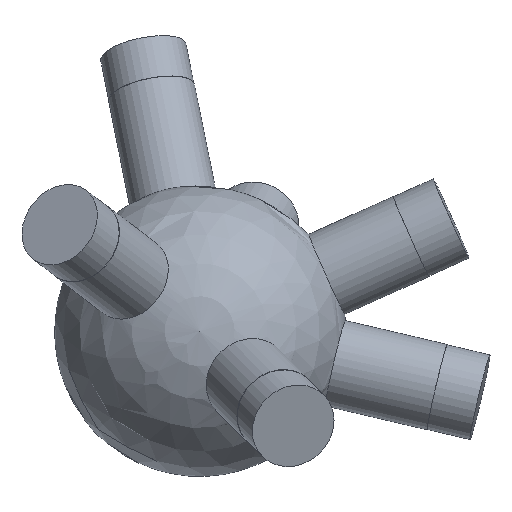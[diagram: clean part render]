
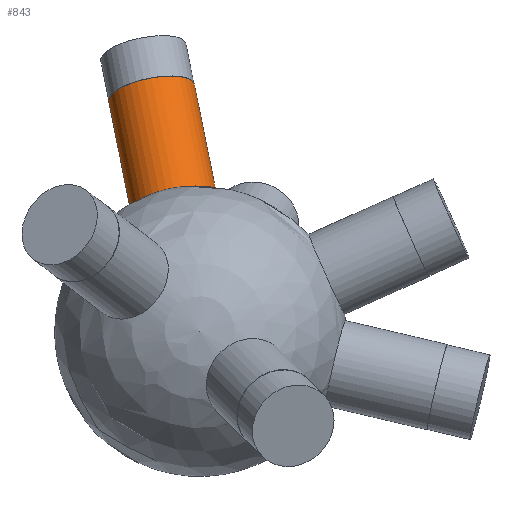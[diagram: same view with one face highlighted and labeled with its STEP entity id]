
A CAD part, top view. The second image highlights one B-rep face of the part: STEP entity #843.
In plain terms, the highlighted cylindrical face has radius 6 mm (diameter 12 mm), a full revolution.
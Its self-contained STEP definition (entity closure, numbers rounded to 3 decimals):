
#33 = SPHERICAL_SURFACE('',#34,20.);
#34 = AXIS2_PLACEMENT_3D('',#35,#36,#37);
#35 = CARTESIAN_POINT('',(0.,0.,0.));
#36 = DIRECTION('',(0.,0.,1.));
#37 = DIRECTION('',(1.,0.,-0.));
#341 = EDGE_CURVE('',#342,#342,#344,.T.);
#342 = VERTEX_POINT('',#343);
#343 = CARTESIAN_POINT('',(-3.56,19.667,
    -0.726));
#344 = SURFACE_CURVE('',#345,(#350,#419),.PCURVE_S1.);
#345 = CIRCLE('',#346,6.);
#346 = AXIS2_PLACEMENT_3D('',#347,#348,#349);
#347 = CARTESIAN_POINT('',(-3.56,17.628,
    -6.369));
#348 = DIRECTION('',(-0.187,0.924,-0.334));
#349 = DIRECTION('',(0.,0.34,0.94)
  );
#350 = PCURVE('',#33,#351);
#351 = DEFINITIONAL_REPRESENTATION('',(#352),#418);
#352 = B_SPLINE_CURVE_WITH_KNOTS('',8,(#353,#354,#355,#356,#357,#358,
    #359,#360,#361,#362,#363,#364,#365,#366,#367,#368,#369,#370,#371,
    #372,#373,#374,#375,#376,#377,#378,#379,#380,#381,#382,#383,#384,
    #385,#386,#387,#388,#389,#390,#391,#392,#393,#394,#395,#396,#397,
    #398,#399,#400,#401,#402,#403,#404,#405,#406,#407,#408,#409,#410,
    #411,#412,#413,#414,#415,#416,#417),.UNSPECIFIED.,.F.,.F.,(9,7,7,7,7
    ,7,7,7,7,9),(0.,0.785,1.473,2.074,
    2.6,3.06,3.866,4.47,
    5.377,6.283),.UNSPECIFIED.);
#353 = CARTESIAN_POINT('',(1.75,-0.036));
#354 = CARTESIAN_POINT('',(1.72,-0.038));
#355 = CARTESIAN_POINT('',(1.691,-0.043));
#356 = CARTESIAN_POINT('',(1.663,-0.051));
#357 = CARTESIAN_POINT('',(1.635,-0.062));
#358 = CARTESIAN_POINT('',(1.608,-0.076));
#359 = CARTESIAN_POINT('',(1.584,-0.093));
#360 = CARTESIAN_POINT('',(1.561,-0.112));
#361 = CARTESIAN_POINT('',(1.522,-0.151));
#362 = CARTESIAN_POINT('',(1.505,-0.171));
#363 = CARTESIAN_POINT('',(1.491,-0.193));
#364 = CARTESIAN_POINT('',(1.478,-0.216));
#365 = CARTESIAN_POINT('',(1.467,-0.24));
#366 = CARTESIAN_POINT('',(1.459,-0.264));
#367 = CARTESIAN_POINT('',(1.453,-0.289));
#368 = CARTESIAN_POINT('',(1.446,-0.337));
#369 = CARTESIAN_POINT('',(1.445,-0.36));
#370 = CARTESIAN_POINT('',(1.445,-0.383));
#371 = CARTESIAN_POINT('',(1.448,-0.405));
#372 = CARTESIAN_POINT('',(1.453,-0.427));
#373 = CARTESIAN_POINT('',(1.46,-0.449));
#374 = CARTESIAN_POINT('',(1.469,-0.47));
#375 = CARTESIAN_POINT('',(1.489,-0.508));
#376 = CARTESIAN_POINT('',(1.501,-0.525));
#377 = CARTESIAN_POINT('',(1.514,-0.542));
#378 = CARTESIAN_POINT('',(1.529,-0.557));
#379 = CARTESIAN_POINT('',(1.545,-0.571));
#380 = CARTESIAN_POINT('',(1.563,-0.584));
#381 = CARTESIAN_POINT('',(1.582,-0.596));
#382 = CARTESIAN_POINT('',(1.62,-0.616));
#383 = CARTESIAN_POINT('',(1.639,-0.624));
#384 = CARTESIAN_POINT('',(1.659,-0.63));
#385 = CARTESIAN_POINT('',(1.679,-0.636));
#386 = CARTESIAN_POINT('',(1.7,-0.64));
#387 = CARTESIAN_POINT('',(1.722,-0.643));
#388 = CARTESIAN_POINT('',(1.743,-0.645));
#389 = CARTESIAN_POINT('',(1.803,-0.646));
#390 = CARTESIAN_POINT('',(1.841,-0.642));
#391 = CARTESIAN_POINT('',(1.878,-0.634));
#392 = CARTESIAN_POINT('',(1.913,-0.623));
#393 = CARTESIAN_POINT('',(1.945,-0.607));
#394 = CARTESIAN_POINT('',(1.975,-0.589));
#395 = CARTESIAN_POINT('',(2.,-0.567));
#396 = CARTESIAN_POINT('',(2.039,-0.526));
#397 = CARTESIAN_POINT('',(2.053,-0.507));
#398 = CARTESIAN_POINT('',(2.065,-0.487));
#399 = CARTESIAN_POINT('',(2.075,-0.465));
#400 = CARTESIAN_POINT('',(2.083,-0.444));
#401 = CARTESIAN_POINT('',(2.088,-0.422));
#402 = CARTESIAN_POINT('',(2.092,-0.399));
#403 = CARTESIAN_POINT('',(2.096,-0.343));
#404 = CARTESIAN_POINT('',(2.093,-0.308));
#405 = CARTESIAN_POINT('',(2.086,-0.275));
#406 = CARTESIAN_POINT('',(2.076,-0.242));
#407 = CARTESIAN_POINT('',(2.061,-0.21));
#408 = CARTESIAN_POINT('',(2.043,-0.181));
#409 = CARTESIAN_POINT('',(2.021,-0.154));
#410 = CARTESIAN_POINT('',(1.973,-0.106));
#411 = CARTESIAN_POINT('',(1.946,-0.085));
#412 = CARTESIAN_POINT('',(1.916,-0.067));
#413 = CARTESIAN_POINT('',(1.885,-0.053));
#414 = CARTESIAN_POINT('',(1.852,-0.042));
#415 = CARTESIAN_POINT('',(1.818,-0.036));
#416 = CARTESIAN_POINT('',(1.784,-0.034));
#417 = CARTESIAN_POINT('',(1.75,-0.036));
#418 = ( GEOMETRIC_REPRESENTATION_CONTEXT(2) 
PARAMETRIC_REPRESENTATION_CONTEXT() REPRESENTATION_CONTEXT('2D SPACE',''
  ) );
#419 = PCURVE('',#420,#425);
#420 = CYLINDRICAL_SURFACE('',#421,6.);
#421 = AXIS2_PLACEMENT_3D('',#422,#423,#424);
#422 = CARTESIAN_POINT('',(0.,0.,0.));
#423 = DIRECTION('',(-0.187,0.924,-0.334));
#424 = DIRECTION('',(0.,0.34,0.94)
  );
#425 = DEFINITIONAL_REPRESENTATION('',(#426),#430);
#426 = LINE('',#427,#428);
#427 = CARTESIAN_POINT('',(0.,19.079));
#428 = VECTOR('',#429,1.);
#429 = DIRECTION('',(1.,0.));
#430 = ( GEOMETRIC_REPRESENTATION_CONTEXT(2) 
PARAMETRIC_REPRESENTATION_CONTEXT() REPRESENTATION_CONTEXT('2D SPACE',''
  ) );
#843 = ADVANCED_FACE('',(#844),#420,.T.);
#844 = FACE_BOUND('',#845,.T.);
#845 = EDGE_LOOP('',(#846,#869,#896,#897));
#846 = ORIENTED_EDGE('',*,*,#847,.T.);
#847 = EDGE_CURVE('',#342,#848,#850,.T.);
#848 = VERTEX_POINT('',#849);
#849 = CARTESIAN_POINT('',(-6.602,34.734,
    -6.17));
#850 = SEAM_CURVE('',#851,(#855,#862),.PCURVE_S1.);
#851 = LINE('',#852,#853);
#852 = CARTESIAN_POINT('',(0.,2.039,
    5.643));
#853 = VECTOR('',#854,1.);
#854 = DIRECTION('',(-0.187,0.924,-0.334));
#855 = PCURVE('',#420,#856);
#856 = DEFINITIONAL_REPRESENTATION('',(#857),#861);
#857 = LINE('',#858,#859);
#858 = CARTESIAN_POINT('',(6.283,-0.));
#859 = VECTOR('',#860,1.);
#860 = DIRECTION('',(0.,1.));
#861 = ( GEOMETRIC_REPRESENTATION_CONTEXT(2) 
PARAMETRIC_REPRESENTATION_CONTEXT() REPRESENTATION_CONTEXT('2D SPACE',''
  ) );
#862 = PCURVE('',#420,#863);
#863 = DEFINITIONAL_REPRESENTATION('',(#864),#868);
#864 = LINE('',#865,#866);
#865 = CARTESIAN_POINT('',(0.,-0.));
#866 = VECTOR('',#867,1.);
#867 = DIRECTION('',(0.,1.));
#868 = ( GEOMETRIC_REPRESENTATION_CONTEXT(2) 
PARAMETRIC_REPRESENTATION_CONTEXT() REPRESENTATION_CONTEXT('2D SPACE',''
  ) );
#869 = ORIENTED_EDGE('',*,*,#870,.F.);
#870 = EDGE_CURVE('',#848,#848,#871,.T.);
#871 = SURFACE_CURVE('',#872,(#877,#884),.PCURVE_S1.);
#872 = CIRCLE('',#873,6.);
#873 = AXIS2_PLACEMENT_3D('',#874,#875,#876);
#874 = CARTESIAN_POINT('',(-6.602,32.695,
    -11.813));
#875 = DIRECTION('',(-0.187,0.924,-0.334));
#876 = DIRECTION('',(0.,0.34,0.94)
  );
#877 = PCURVE('',#420,#878);
#878 = DEFINITIONAL_REPRESENTATION('',(#879),#883);
#879 = LINE('',#880,#881);
#880 = CARTESIAN_POINT('',(0.,35.385));
#881 = VECTOR('',#882,1.);
#882 = DIRECTION('',(1.,0.));
#883 = ( GEOMETRIC_REPRESENTATION_CONTEXT(2) 
PARAMETRIC_REPRESENTATION_CONTEXT() REPRESENTATION_CONTEXT('2D SPACE',''
  ) );
#884 = PCURVE('',#885,#890);
#885 = PLANE('',#886);
#886 = AXIS2_PLACEMENT_3D('',#887,#888,#889);
#887 = CARTESIAN_POINT('',(-6.602,32.695,
    -11.813));
#888 = DIRECTION('',(-0.187,0.924,-0.334));
#889 = DIRECTION('',(0.,0.34,0.94)
  );
#890 = DEFINITIONAL_REPRESENTATION('',(#891),#895);
#891 = CIRCLE('',#892,6.);
#892 = AXIS2_PLACEMENT_2D('',#893,#894);
#893 = CARTESIAN_POINT('',(0.,0.));
#894 = DIRECTION('',(1.,0.));
#895 = ( GEOMETRIC_REPRESENTATION_CONTEXT(2) 
PARAMETRIC_REPRESENTATION_CONTEXT() REPRESENTATION_CONTEXT('2D SPACE',''
  ) );
#896 = ORIENTED_EDGE('',*,*,#847,.F.);
#897 = ORIENTED_EDGE('',*,*,#341,.T.);
